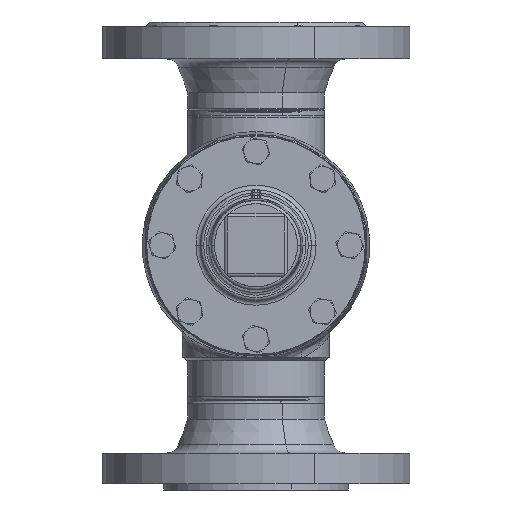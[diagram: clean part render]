
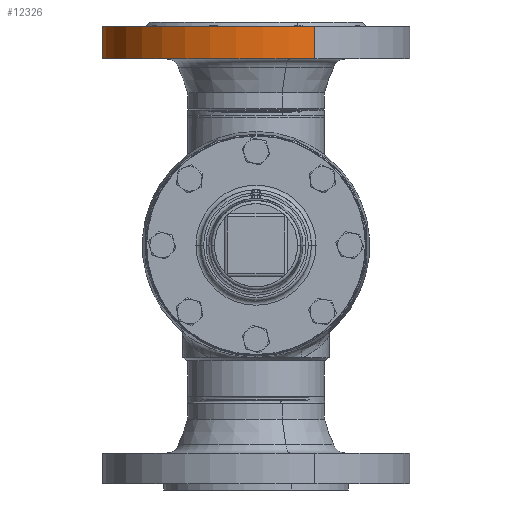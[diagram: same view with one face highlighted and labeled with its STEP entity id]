
A CAD part, front view. The second image highlights one B-rep face of the part: STEP entity #12326.
In plain terms, the highlighted cylindrical face has radius 100 mm (diameter 200 mm), a partial arc.
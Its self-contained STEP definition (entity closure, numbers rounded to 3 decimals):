
#19407 = FACE_OUTER_BOUND ( 'NONE', #11850, .T. ) ;
#19426 = CYLINDRICAL_SURFACE ( 'NONE', #19427, 100. ) ;
#19427 = AXIS2_PLACEMENT_3D ( 'NONE', #19428, #19429, #19430 ) ;
#19428 = CARTESIAN_POINT ( 'NONE',  ( 0., 75., 0. ) ) ;
#19429 = DIRECTION ( 'NONE',  ( 0., 1., 0. ) ) ;
#19430 = DIRECTION ( 'NONE',  ( -1., 0., 0. ) ) ;
#3813 = CARTESIAN_POINT ( 'NONE',  ( -100., 24., 0. ) ) ;
#4170 = CIRCLE ( 'NONE', #4171, 100. ) ;
#4171 = AXIS2_PLACEMENT_3D ( 'NONE', #4172, #4173, #4174 ) ;
#4172 = CARTESIAN_POINT ( 'NONE',  ( 0., 24., 0. ) ) ;
#4173 = DIRECTION ( 'NONE',  ( 0., 1., 0. ) ) ;
#4174 = DIRECTION ( 'NONE',  ( -1., 0., 0. ) ) ;
#4882 = VERTEX_POINT ( 'NONE', #3813 ) ;
#5321 = EDGE_CURVE ( 'NONE', #4882, #7055, #4170, .T. ) ;
#21722 = EDGE_CURVE ( 'NONE', #9664, #4882, #6558, .T. ) ;
#5910 = CARTESIAN_POINT ( 'NONE',  ( 100., 24., 0. ) ) ;
#6043 = ORIENTED_EDGE ( 'NONE', *, *, #5321, .F. ) ;
#22438 = ORIENTED_EDGE ( 'NONE', *, *, #21722, .F. ) ;
#6193 = LINE ( 'NONE', #6194, #6195 ) ;
#6194 = CARTESIAN_POINT ( 'NONE',  ( 100., 75., 0. ) ) ;
#6195 = VECTOR ( 'NONE', #6196, 1000. ) ;
#6196 = DIRECTION ( 'NONE',  ( 0., 1., 0. ) ) ;
#6558 = LINE ( 'NONE', #6559, #6560 ) ;
#6559 = CARTESIAN_POINT ( 'NONE',  ( -100., 75., 0. ) ) ;
#6560 = VECTOR ( 'NONE', #6561, 1000. ) ;
#6561 = DIRECTION ( 'NONE',  ( 0., 1., 0. ) ) ;
#7055 = VERTEX_POINT ( 'NONE', #5910 ) ;
#7487 = EDGE_CURVE ( 'NONE', #9229, #7055, #6193, .T. ) ;
#8216 = ORIENTED_EDGE ( 'NONE', *, *, #7487, .T. ) ;
#9229 = VERTEX_POINT ( 'NONE', #14002 ) ;
#9664 = VERTEX_POINT ( 'NONE', #14494 ) ;
#10106 = EDGE_CURVE ( 'NONE', #9664, #9229, #15805, .T. ) ;
#10830 = ORIENTED_EDGE ( 'NONE', *, *, #10106, .T. ) ;
#11850 = EDGE_LOOP ( 'NONE', ( #10830, #8216, #6043, #22438 ) ) ;
#12326 = ADVANCED_FACE ( 'NONE', ( #19407 ), #19426, .T. ) ;
#14002 = CARTESIAN_POINT ( 'NONE',  ( 100., 3., 0. ) ) ;
#14494 = CARTESIAN_POINT ( 'NONE',  ( -100., 3., 0. ) ) ;
#15805 = CIRCLE ( 'NONE', #15806, 100. ) ;
#15806 = AXIS2_PLACEMENT_3D ( 'NONE', #15807, #15808, #15809 ) ;
#15807 = CARTESIAN_POINT ( 'NONE',  ( 0., 3., 0. ) ) ;
#15808 = DIRECTION ( 'NONE',  ( 0., 1., 0. ) ) ;
#15809 = DIRECTION ( 'NONE',  ( -1., 0., 0. ) ) ;
